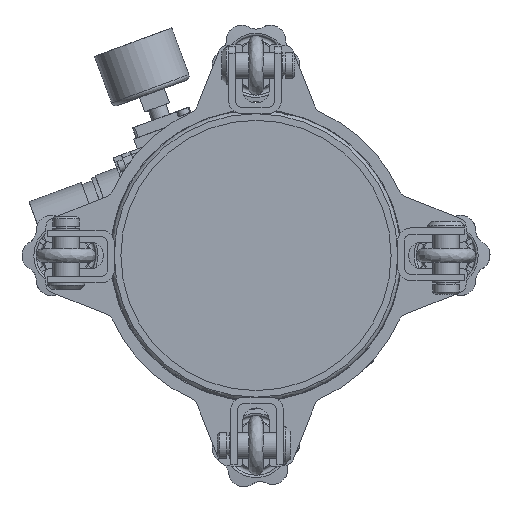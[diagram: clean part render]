
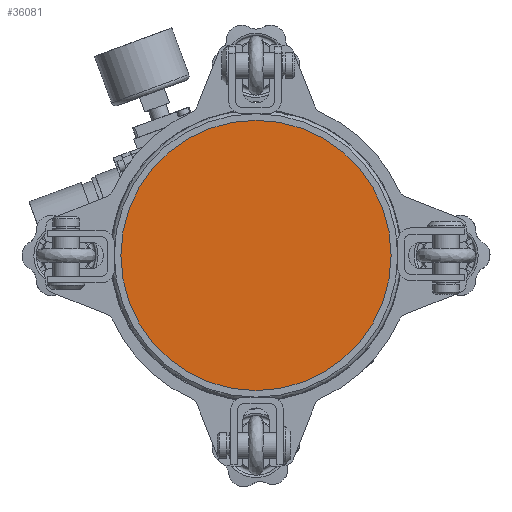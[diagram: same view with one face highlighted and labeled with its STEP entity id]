
A CAD part, front view. The second image highlights one B-rep face of the part: STEP entity #36081.
In plain terms, the highlighted planar face has unit normal (0, -1, 0).
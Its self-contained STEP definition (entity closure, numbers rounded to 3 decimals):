
#2114 = EDGE_LOOP ( 'NONE', ( #14959 ) ) ;
#4027 = DIRECTION ( 'NONE',  ( 0., 0., -1. ) ) ;
#4724 = DIRECTION ( 'NONE',  ( 0., 0., -1. ) ) ;
#5614 = EDGE_CURVE ( 'NONE', #35227, #35227, #42012, .T. ) ;
#9988 = CARTESIAN_POINT ( 'NONE',  ( 5.637, -106.395, 200. ) ) ;
#12309 = CARTESIAN_POINT ( 'NONE',  ( 5.637, -106.395, 138.5 ) ) ;
#14959 = ORIENTED_EDGE ( 'NONE', *, *, #5614, .F. ) ;
#24174 = AXIS2_PLACEMENT_3D ( 'NONE', #9988, #27900, #4027 ) ;
#27900 = DIRECTION ( 'NONE',  ( 0., 1., 0. ) ) ;
#31739 = PLANE ( 'NONE',  #43888 ) ;
#35227 = VERTEX_POINT ( 'NONE', #12309 ) ;
#36081 = ADVANCED_FACE ( 'NONE', ( #45268 ), #31739, .T. ) ;
#37503 = DIRECTION ( 'NONE',  ( 0., -1., 0. ) ) ;
#42012 = CIRCLE ( 'NONE', #24174, 61.5 ) ;
#43888 = AXIS2_PLACEMENT_3D ( 'NONE', #44981, #37503, #4724 ) ;
#44981 = CARTESIAN_POINT ( 'NONE',  ( 5.637, -106.395, 200. ) ) ;
#45268 = FACE_OUTER_BOUND ( 'NONE', #2114, .T. ) ;
